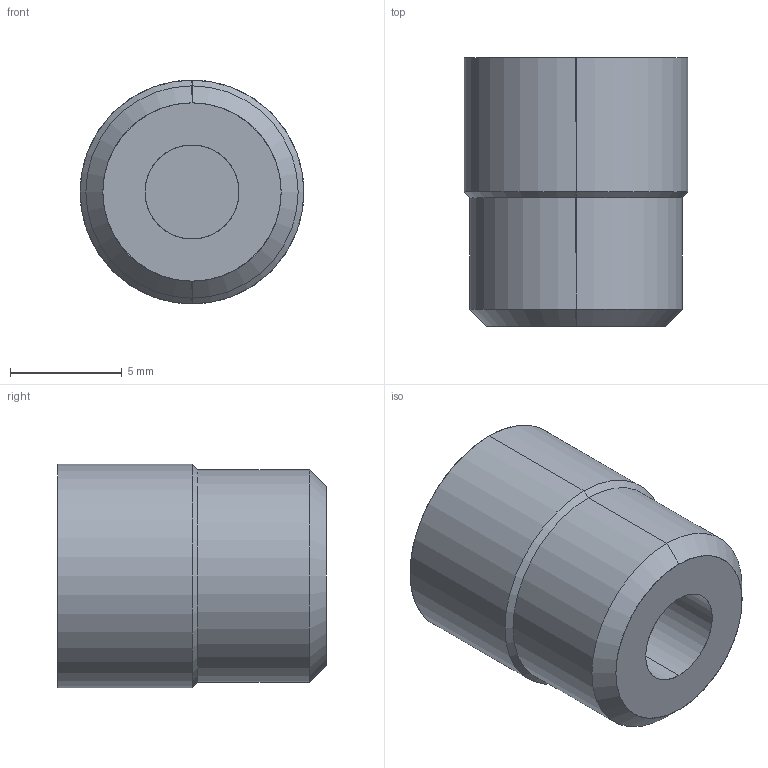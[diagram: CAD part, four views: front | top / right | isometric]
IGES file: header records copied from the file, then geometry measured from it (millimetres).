
Start section: SolidWorks IGES file using analytic representation for surfaces
Global section: file name: C:\Users\365admin\AppData\Local\Temp\InFlowXlateWorking\RI-10-5.igs; native system: SolidWorks 2018; preprocessor: SolidWorks 2018; author: 365admin; date: 200821.055546; units: millimetre
Bounding box: 10 x 12 x 10 mm (x, y, z)
Surface area: 603 mm2 (no closed solid volume)
Topology: 0 solids, 0 shells, 96 faces, 938 edges, 938 vertices
Faces by surface type: bspline 80, revolution 16
